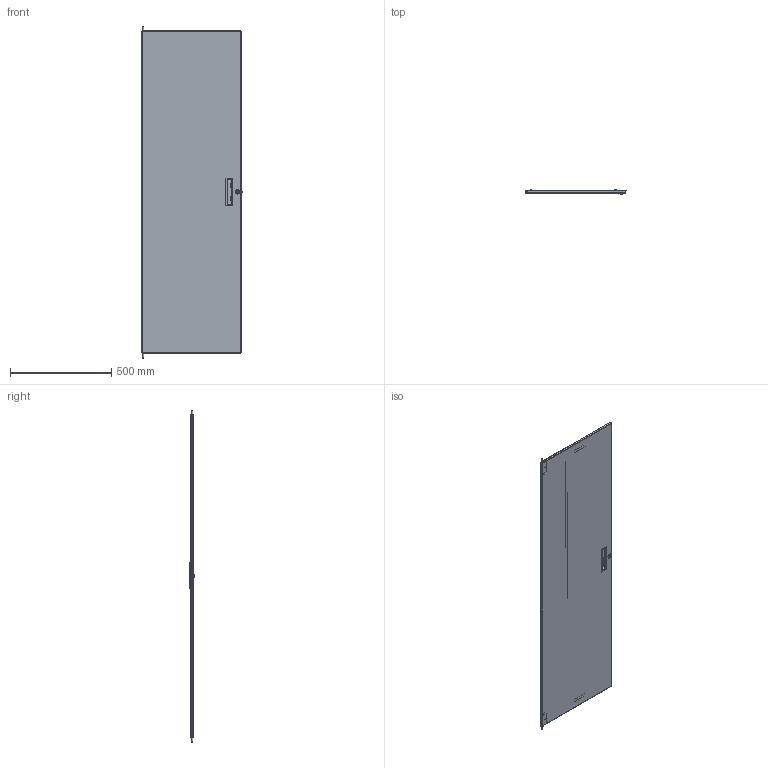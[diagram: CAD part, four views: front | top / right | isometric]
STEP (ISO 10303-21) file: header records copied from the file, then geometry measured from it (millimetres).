
FILE_DESCRIPTION( ( 'Unknown' ), '1' );
FILE_NAME( 'Q:/WEB DRAWINGS/STEP/CDF1963S.stp', 'Unknown', ( 'Unknown' ), ( 'Unknown' ), 'PSStep 17.0.49', 'Unknown', ' ' );
FILE_SCHEMA( ( 'AUTOMOTIVE_DESIGN { 1 0 10303 214 1 1 1 1 }' ) );
Length unit declared in the file: millimetre
Products named in the file (10): COM54617; HNG14581; std26020; COM43744; COM40863; Assem1; LOC13312; HAN13044; PIN17620
Assembly tree (11 placements, depth 4):
  Assem1
    LOC13312
    HAN13044
    PIN17620  x2
    COM43744
      COM40863
      COM43744
      COM54617  x2
        HNG14581
        std26020
Bounding box: 496.67 x 19.96 x 1641.75 mm (x, y, z)
Volume: 1603132.8 mm3; surface area: 2289449.4 mm2
Topology: 10 solids, 10 shells, 298 faces, 721 edges, 458 vertices
Faces by surface type: plane 203, cylinder 70, bspline 12, cone 9, torus 4
Full cylindrical faces by diameter (mm): 4.775 x2, 5.182 x2, 6.35 x8, 8.382 x1, 13.868 x1, 13.97 x1, 21.996 x1
Entity records: 10256 total; most frequent: CARTESIAN_POINT 1910, ORIENTED_EDGE 1240, DIRECTION 1230, EDGE_CURVE 620, LINE 466, VECTOR 466, VERTEX_POINT 402, AXIS2_PLACEMENT_3D 382
